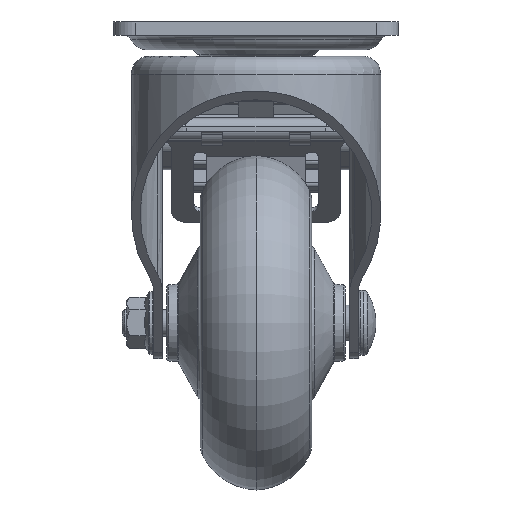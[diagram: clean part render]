
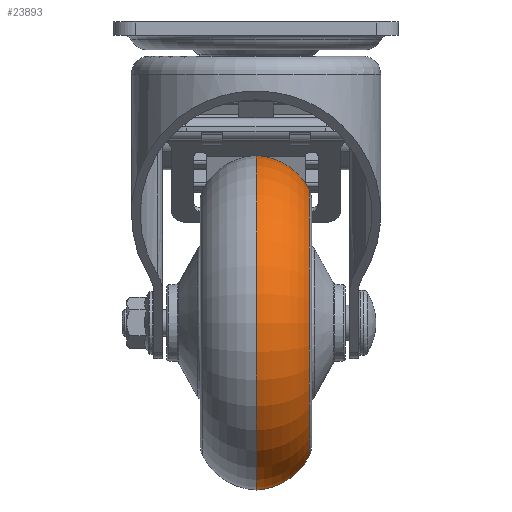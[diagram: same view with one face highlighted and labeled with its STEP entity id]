
A CAD part, left-side view. The second image highlights one B-rep face of the part: STEP entity #23893.
In plain terms, the highlighted toroidal (fillet/blend) face has major radius 23.51 mm and minor radius 14 mm.
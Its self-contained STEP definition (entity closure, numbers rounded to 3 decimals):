
#5861=TOROIDAL_SURFACE('',#25293,23.51,14.);
#5979=FACE_BOUND('',#7596,.T.);
#6202=FACE_OUTER_BOUND('',#7595,.T.);
#7595=EDGE_LOOP('',(#15907));
#7596=EDGE_LOOP('',(#15908));
#9132=CIRCLE('',#25292,29.807);
#9133=CIRCLE('',#25294,37.5);
#9902=VERTEX_POINT('',#34411);
#9903=VERTEX_POINT('',#34414);
#12292=EDGE_CURVE('',#9902,#9902,#9132,.T.);
#12293=EDGE_CURVE('',#9903,#9903,#9133,.T.);
#15907=ORIENTED_EDGE('',*,*,#12292,.T.);
#15908=ORIENTED_EDGE('',*,*,#12293,.F.);
#23893=ADVANCED_FACE('',(#6202,#5979),#5861,.T.);
#25292=AXIS2_PLACEMENT_3D('',#34412,#27522,#27523);
#25293=AXIS2_PLACEMENT_3D('',#34413,#27524,#27525);
#25294=AXIS2_PLACEMENT_3D('',#34415,#27526,#27527);
#27522=DIRECTION('center_axis',(0.,1.,0.));
#27523=DIRECTION('ref_axis',(1.,0.,0.));
#27524=DIRECTION('center_axis',(0.,1.,0.));
#27525=DIRECTION('ref_axis',(0.,0.,1.));
#27526=DIRECTION('center_axis',(0.,1.,0.));
#27527=DIRECTION('ref_axis',(1.,0.,0.));
#34411=CARTESIAN_POINT('',(31.5,-11.966,17.407));
#34412=CARTESIAN_POINT('Origin',(31.5,-11.966,-12.4));
#34413=CARTESIAN_POINT('Origin',(31.5,0.538,-12.4));
#34414=CARTESIAN_POINT('',(31.5,0.,25.1));
#34415=CARTESIAN_POINT('Origin',(31.5,0.,
-12.4));
